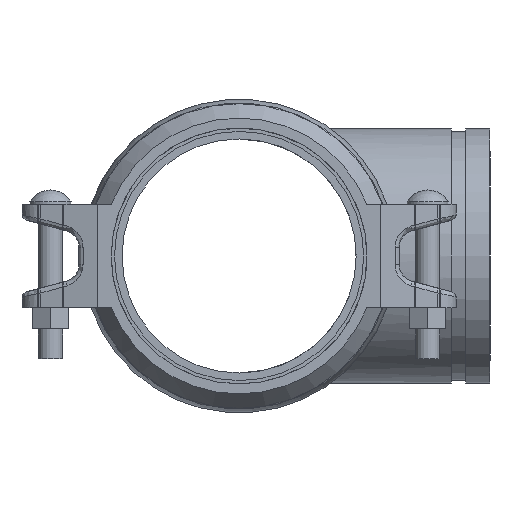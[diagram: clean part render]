
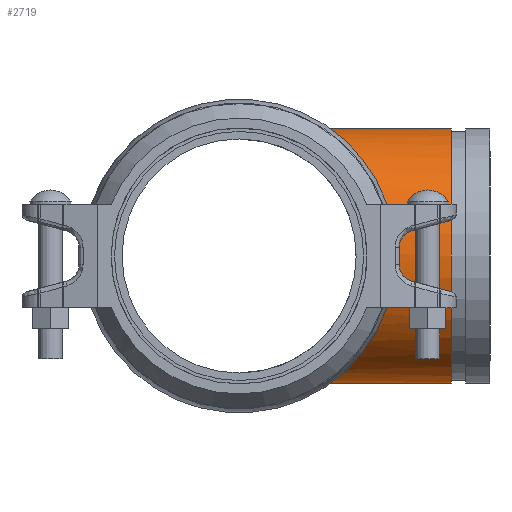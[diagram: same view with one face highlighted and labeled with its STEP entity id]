
A CAD part, left-side view. The second image highlights one B-rep face of the part: STEP entity #2719.
In plain terms, the highlighted cylindrical face has radius 84.138 mm (diameter 168.275 mm), a full revolution.
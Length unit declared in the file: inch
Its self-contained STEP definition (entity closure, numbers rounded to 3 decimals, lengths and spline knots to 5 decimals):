
#83=ELLIPSE('',#2984,4.68458,3.3125);
#84=ELLIPSE('',#2985,4.68458,3.3125);
#85=ELLIPSE('',#2986,4.68458,3.3125);
#231=FACE_OUTER_BOUND('',#387,.T.);
#387=EDGE_LOOP('',(#1740,#1741,#1742,#1743,#1744,#1745));
#572=LINE('',#4200,#745);
#745=VECTOR('',#3353,3.3125);
#919=CIRCLE('',#2973,3.3125);
#1069=VERTEX_POINT('',#4174);
#1076=VERTEX_POINT('',#4194);
#1077=VERTEX_POINT('',#4195);
#1078=VERTEX_POINT('',#4197);
#1334=EDGE_CURVE('',#1069,#1069,#919,.T.);
#1343=EDGE_CURVE('',#1076,#1077,#83,.T.);
#1344=EDGE_CURVE('',#1078,#1076,#84,.T.);
#1345=EDGE_CURVE('',#1077,#1078,#85,.T.);
#1346=EDGE_CURVE('',#1077,#1069,#572,.T.);
#1740=ORIENTED_EDGE('',*,*,#1343,.F.);
#1741=ORIENTED_EDGE('',*,*,#1344,.F.);
#1742=ORIENTED_EDGE('',*,*,#1345,.F.);
#1743=ORIENTED_EDGE('',*,*,#1346,.T.);
#1744=ORIENTED_EDGE('',*,*,#1334,.T.);
#1745=ORIENTED_EDGE('',*,*,#1346,.F.);
#2499=CYLINDRICAL_SURFACE('',#2983,3.3125);
#2719=ADVANCED_FACE('',(#231),#2499,.T.);
#2973=AXIS2_PLACEMENT_3D('',#4175,#3323,#3324);
#2983=AXIS2_PLACEMENT_3D('',#4193,#3345,#3346);
#2984=AXIS2_PLACEMENT_3D('',#4196,#3347,#3348);
#2985=AXIS2_PLACEMENT_3D('',#4198,#3349,#3350);
#2986=AXIS2_PLACEMENT_3D('',#4199,#3351,#3352);
#3323=DIRECTION('center_axis',(0.,1.,0.));
#3324=DIRECTION('ref_axis',(1.,0.,0.));
#3345=DIRECTION('center_axis',(0.,1.,0.));
#3346=DIRECTION('ref_axis',(1.,0.,0.));
#3347=DIRECTION('center_axis',(-0.707,0.707,0.));
#3348=DIRECTION('ref_axis',(0.707,0.707,0.));
#3349=DIRECTION('center_axis',(0.707,0.707,0.));
#3350=DIRECTION('ref_axis',(0.707,-0.707,0.));
#3351=DIRECTION('center_axis',(-0.707,0.707,0.));
#3352=DIRECTION('ref_axis',(0.707,0.707,0.));
#3353=DIRECTION('',(0.,-1.,0.));
#4174=CARTESIAN_POINT('',(-3.3125,-5.5,0.));
#4175=CARTESIAN_POINT('Origin',(0.,-5.5,0.));
#4193=CARTESIAN_POINT('Origin',(0.,-6.5,0.));
#4194=CARTESIAN_POINT('',(0.,0.,-3.3125));
#4195=CARTESIAN_POINT('',(-3.3125,-3.3125,0.));
#4196=CARTESIAN_POINT('Origin',(0.,0.,0.));
#4197=CARTESIAN_POINT('',(0.,0.,3.3125));
#4198=CARTESIAN_POINT('Origin',(0.,0.,0.));
#4199=CARTESIAN_POINT('Origin',(0.,0.,0.));
#4200=CARTESIAN_POINT('',(-3.3125,-6.5,0.));
